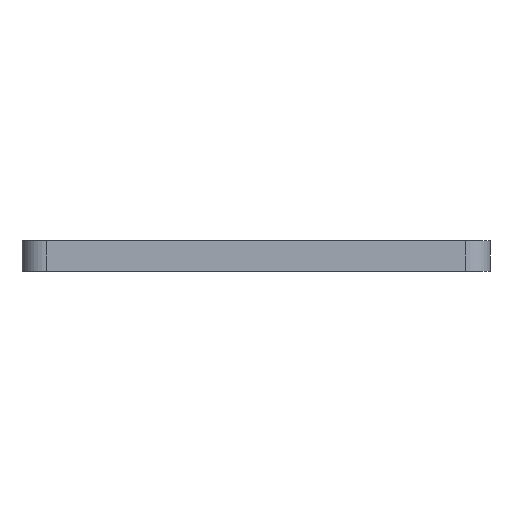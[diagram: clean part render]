
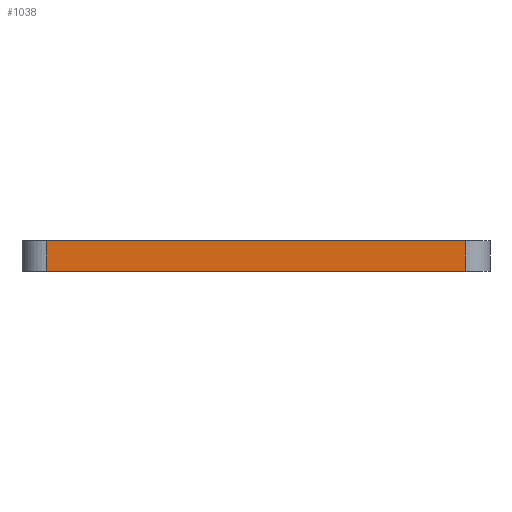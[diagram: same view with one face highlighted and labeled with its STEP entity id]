
A CAD part, left-side view. The second image highlights one B-rep face of the part: STEP entity #1038.
In plain terms, the highlighted planar face has unit normal (-1, 0, 0).
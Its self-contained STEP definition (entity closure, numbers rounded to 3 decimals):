
#58=PLANE('',#1130);
#88=VECTOR('',#1213,1.);
#130=VECTOR('',#1313,1.);
#147=VECTOR('',#1369,1.);
#152=VECTOR('',#1382,1.);
#182=LINE('',#1486,#88);
#224=LINE('',#1610,#130);
#241=LINE('',#1662,#147);
#246=LINE('',#1672,#152);
#291=VERTEX_POINT('',#1485);
#292=VERTEX_POINT('',#1487);
#339=VERTEX_POINT('',#1609);
#340=VERTEX_POINT('',#1611);
#450=EDGE_CURVE('',#292,#291,#182,.T.);
#517=EDGE_CURVE('',#340,#339,#224,.T.);
#543=EDGE_CURVE('',#340,#291,#241,.T.);
#548=EDGE_CURVE('',#339,#292,#246,.T.);
#849=ORIENTED_EDGE('',*,*,#450,.T.);
#850=ORIENTED_EDGE('',*,*,#543,.F.);
#851=ORIENTED_EDGE('',*,*,#517,.T.);
#852=ORIENTED_EDGE('',*,*,#548,.T.);
#918=EDGE_LOOP('',(#849,#850,#851,#852));
#984=FACE_BOUND('',#918,.T.);
#1038=ADVANCED_FACE('',(#984),#58,.T.);
#1130=AXIS2_PLACEMENT_3D('',#1673,#1383,$);
#1213=DIRECTION('',(0.,1.,0.));
#1313=DIRECTION('',(0.,-1.,0.));
#1369=DIRECTION('',(0.,0.,1.));
#1382=DIRECTION('',(0.,0.,1.));
#1383=DIRECTION('',(-1.,0.,0.));
#1485=CARTESIAN_POINT('',(-42.,34.5,2.5));
#1486=CARTESIAN_POINT('',(-42.,34.5,2.5));
#1487=CARTESIAN_POINT('',(-42.,-34.5,2.5));
#1609=CARTESIAN_POINT('',(-42.,-34.5,-2.5));
#1610=CARTESIAN_POINT('',(-42.,34.5,-2.5));
#1611=CARTESIAN_POINT('',(-42.,34.5,-2.5));
#1662=CARTESIAN_POINT('',(-42.,34.5,-2.5));
#1672=CARTESIAN_POINT('',(-42.,-34.5,-2.5));
#1673=CARTESIAN_POINT('',(-42.,0.,-2.5));
